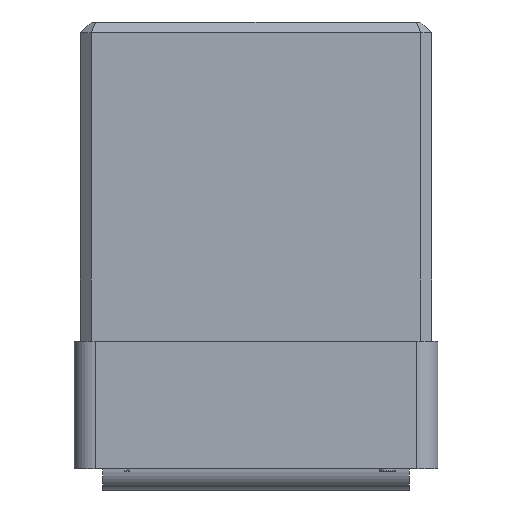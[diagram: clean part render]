
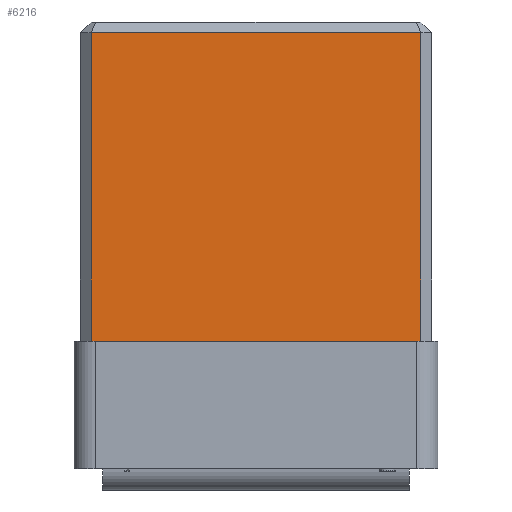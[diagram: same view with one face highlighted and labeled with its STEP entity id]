
A CAD part, front view. The second image highlights one B-rep face of the part: STEP entity #6216.
In plain terms, the highlighted planar face has unit normal (0, -1, 0).
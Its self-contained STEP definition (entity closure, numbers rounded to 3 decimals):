
#173=DIRECTION('',(1.,0.,0.));
#174=VECTOR('',#173,15.5);
#175=CARTESIAN_POINT('',(-7.75,-4.45,-15.));
#176=LINE('',#175,#174);
#1329=DIRECTION('',(-1.,0.,0.));
#1330=VECTOR('',#1329,15.5);
#1331=CARTESIAN_POINT('',(7.75,-4.45,-0.5));
#1332=LINE('',#1331,#1330);
#1333=DIRECTION('',(0.,0.,1.));
#1334=VECTOR('',#1333,14.5);
#1335=CARTESIAN_POINT('',(7.75,-4.45,-15.));
#1336=LINE('',#1335,#1334);
#1337=DIRECTION('',(0.,0.,-1.));
#1338=VECTOR('',#1337,14.5);
#1339=CARTESIAN_POINT('',(-7.75,-4.45,-0.5));
#1340=LINE('',#1339,#1338);
#4196=CARTESIAN_POINT('',(-7.75,-4.45,-15.));
#4198=VERTEX_POINT('',#4196);
#4204=CARTESIAN_POINT('',(7.75,-4.45,-15.));
#4205=VERTEX_POINT('',#4204);
#4296=CARTESIAN_POINT('',(7.75,-4.45,-0.5));
#4297=CARTESIAN_POINT('',(-7.75,-4.45,-0.5));
#4298=VERTEX_POINT('',#4296);
#4299=VERTEX_POINT('',#4297);
#6203=CARTESIAN_POINT('',(-8.55,-4.45,0.));
#6204=DIRECTION('',(0.,-1.,0.));
#6205=DIRECTION('',(0.,0.,-1.));
#6206=AXIS2_PLACEMENT_3D('',#6203,#6204,#6205);
#6207=PLANE('',#6206);
#6209=ORIENTED_EDGE('',*,*,#6208,.F.);
#6210=ORIENTED_EDGE('',*,*,#6195,.F.);
#6211=ORIENTED_EDGE('',*,*,#4398,.F.);
#6213=ORIENTED_EDGE('',*,*,#6212,.F.);
#6214=EDGE_LOOP('',(#6209,#6210,#6211,#6213));
#6215=FACE_OUTER_BOUND('',#6214,.F.);
#6216=ADVANCED_FACE('',(#6215),#6207,.T.);
#4398=EDGE_CURVE('',#4198,#4205,#176,.T.);
#6195=EDGE_CURVE('',#4205,#4298,#1336,.T.);
#6208=EDGE_CURVE('',#4298,#4299,#1332,.T.);
#6212=EDGE_CURVE('',#4299,#4198,#1340,.T.);
